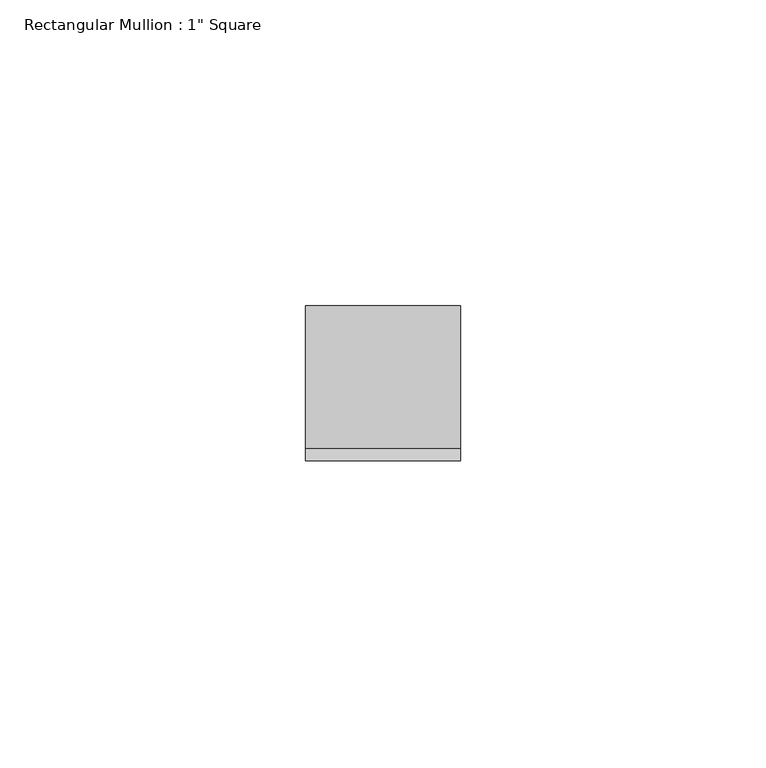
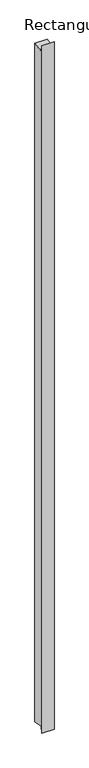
"""IFC4 building model written with IfcOpenShell, lengths in millimetres: member geometry."""

from ifc_helpers import new_model, si_unit, frame, origin, place, context, project, spatial, polyline, outline, extrude, source, transform, mapped, element, save


def member_1d69e541(model_context):
    return source(origin(), model_context, "Body", "SweptSolid", [
        extrude(outline(polyline([(-12.7, 11.7479412), (-10.6645783, -1.7515317), (12.7, 1.7713295), (12.7, -1500.3713295), (-10.6645783, -1496.8484683), (-12.7, -1510.3479412), (-12.7, 11.7479412)])), frame((-25.4, 0.0, 0.0), z_axis=(1.0, 0.0, 0.0), x_axis=(0.0, 1.0, 0.0)), (0.0, 0.0, 1.0), 25.4),
    ])


if __name__ == "__main__":
    model = new_model("IFC4")
    model_context = context("Model", 3, world=origin())
    ifc_project = project(units=[si_unit("LENGTHUNIT", "METRE", prefix="MILLI")], contexts=[model_context])
    site = spatial("IfcSite", under=ifc_project)
    building = spatial("IfcBuilding", under=site)
    placement = place(None, origin())
    member_shape = member_1d69e541(model_context)
    element("IfcMember", 1, ObjectType="Rectangular Mullion : 1\" Square", at=placement, inside=building, context=model_context, shape_type="MappedRepresentation", body=[
        mapped(member_shape, transform((0.0, 0.0, 0.0), x_axis=(1.0, 0.0, 0.0), y_axis=(0.0, 1.0, 0.0), z_axis=(0.0, 0.0, 1.0))),
    ])
    save(model, "model.ifc")
